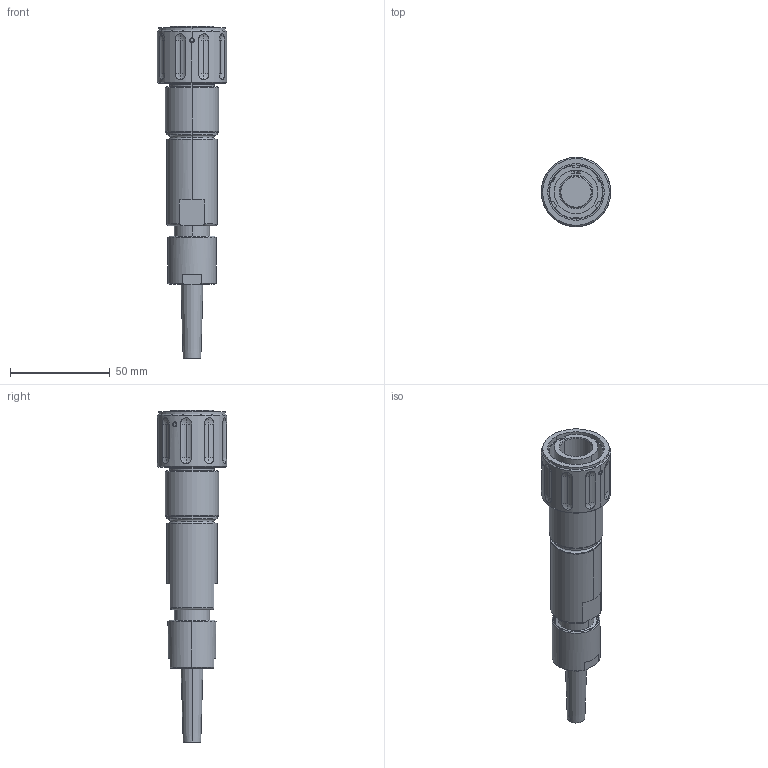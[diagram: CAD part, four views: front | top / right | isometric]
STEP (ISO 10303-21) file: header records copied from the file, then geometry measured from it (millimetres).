
FILE_DESCRIPTION (( 'STEP AP214' ), '1' );
FILE_NAME ('QLINK-PGBX-15XX-SXXX-R0.STEP', '2025-12-09T15:28:45', ( '' ), ( '' ), 'SwSTEP 2.0', 'SolidWorks 2024', '' );
FILE_SCHEMA (( 'AUTOMOTIVE_DESIGN' ));
Length unit declared in the file: millimetre
Products named in the file (1): QLINK-PGBX-15XX-SXXX-R0
Bounding box: 34.8 x 34.8 x 166.83 mm (x, y, z)
Volume: 70566.3 mm3; surface area: 20138.1 mm2
Topology: 5 solids, 5 shells, 235 faces, 531 edges, 329 vertices
Faces by surface type: cylinder 82, plane 52, cone 47, sphere 36, torus 12, bspline 6
Entity records: 9521 total; most frequent: CARTESIAN_POINT 4197, DIRECTION 1145, ORIENTED_EDGE 1058, EDGE_CURVE 529, AXIS2_PLACEMENT_3D 475, VERTEX_POINT 329, EDGE_LOOP 268, CIRCLE 245
